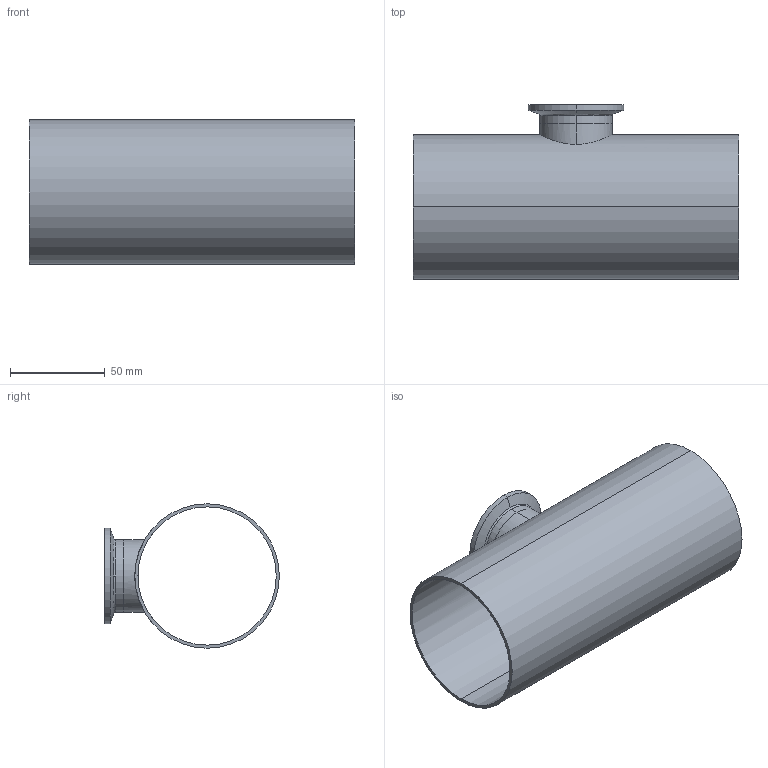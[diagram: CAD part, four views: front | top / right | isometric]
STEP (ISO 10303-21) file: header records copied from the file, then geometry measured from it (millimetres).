
FILE_DESCRIPTION (( 'STEP AP214' ), '1' );
FILE_NAME ('TE7RWWCS6L3.0x1.5-...STEP', '2016-05-23T12:19:10', ( 'eran' ), ( '' ), 'SwSTEP 2.0', 'SolidWorks 2016', '' );
FILE_SCHEMA (( 'AUTOMOTIVE_DESIGN' ));
Length unit declared in the file: millimetre
Products named in the file (1): TE7RWWCS6L3.0x1.5-..
Bounding box: 171.4 x 92.1 x 76.2 mm (x, y, z)
Volume: 71222.8 mm3; surface area: 85464.8 mm2
Topology: 2 solids, 2 shells, 36 faces, 88 edges, 58 vertices
Faces by surface type: cylinder 14, bspline 10, plane 6, cone 6
Entity records: 1978 total; most frequent: CARTESIAN_POINT 1073, DIRECTION 190, ORIENTED_EDGE 176, EDGE_CURVE 88, AXIS2_PLACEMENT_3D 85, VERTEX_POINT 58, CIRCLE 58, EDGE_LOOP 44
